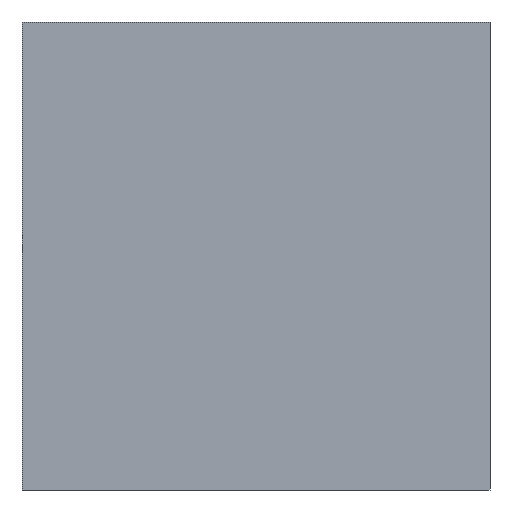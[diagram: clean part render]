
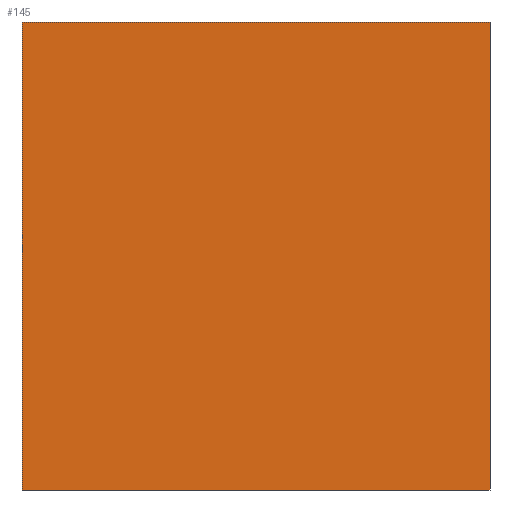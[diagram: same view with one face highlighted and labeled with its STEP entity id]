
A CAD part, front view. The second image highlights one B-rep face of the part: STEP entity #145.
In plain terms, the highlighted planar face has unit normal (0, -1, 0).
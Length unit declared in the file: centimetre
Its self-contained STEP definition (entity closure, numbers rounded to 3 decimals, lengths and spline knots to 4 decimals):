
#76 = CARTESIAN_POINT ( 'NONE',  ( 0., 0., 1000. ) ) ;
#145 = ADVANCED_FACE ( 'NONE', ( #493 ), #722, .F. ) ;
#164 = CARTESIAN_POINT ( 'NONE',  ( 1000., 0., 1000. ) ) ;
#177 = EDGE_LOOP ( 'NONE', ( #603, #1332, #447, #546 ) ) ;
#198 = CARTESIAN_POINT ( 'NONE',  ( 0., 0., 1000. ) ) ;
#244 = AXIS2_PLACEMENT_3D ( 'NONE', #198, #1058, #1036 ) ;
#268 = LINE ( 'NONE', #164, #1047 ) ;
#447 = ORIENTED_EDGE ( 'NONE', *, *, #1146, .F. ) ;
#493 = FACE_OUTER_BOUND ( 'NONE', #177, .T. ) ;
#528 = VECTOR ( 'NONE', #1173, 100. ) ;
#538 = VERTEX_POINT ( 'NONE', #592 ) ;
#541 = EDGE_CURVE ( 'NONE', #1352, #1101, #812, .T. ) ;
#546 = ORIENTED_EDGE ( 'NONE', *, *, #541, .T. ) ;
#592 = CARTESIAN_POINT ( 'NONE',  ( 1000., 0., 0. ) ) ;
#603 = ORIENTED_EDGE ( 'NONE', *, *, #1000, .T. ) ;
#622 = LINE ( 'NONE', #1263, #528 ) ;
#644 = VERTEX_POINT ( 'NONE', #1165 ) ;
#722 = PLANE ( 'NONE',  #244 ) ;
#800 = LINE ( 'NONE', #918, #1246 ) ;
#812 = LINE ( 'NONE', #1348, #1180 ) ;
#918 = CARTESIAN_POINT ( 'NONE',  ( 0., 0., 1000. ) ) ;
#990 = CARTESIAN_POINT ( 'NONE',  ( 0., 0., 0. ) ) ;
#1000 = EDGE_CURVE ( 'NONE', #1101, #538, #622, .T. ) ;
#1036 = DIRECTION ( 'NONE',  ( 0., 0., 1. ) ) ;
#1046 = DIRECTION ( 'NONE',  ( 0., 0., -1. ) ) ;
#1047 = VECTOR ( 'NONE', #1110, 100. ) ;
#1058 = DIRECTION ( 'NONE',  ( 0., 1., 0. ) ) ;
#1101 = VERTEX_POINT ( 'NONE', #990 ) ;
#1110 = DIRECTION ( 'NONE',  ( 0., 0., -1. ) ) ;
#1146 = EDGE_CURVE ( 'NONE', #1352, #644, #800, .T. ) ;
#1158 = EDGE_CURVE ( 'NONE', #644, #538, #268, .T. ) ;
#1165 = CARTESIAN_POINT ( 'NONE',  ( 1000., 0., 1000. ) ) ;
#1173 = DIRECTION ( 'NONE',  ( 1., 0., 0. ) ) ;
#1180 = VECTOR ( 'NONE', #1046, 100. ) ;
#1246 = VECTOR ( 'NONE', #1349, 100. ) ;
#1263 = CARTESIAN_POINT ( 'NONE',  ( 0., 0., 0. ) ) ;
#1332 = ORIENTED_EDGE ( 'NONE', *, *, #1158, .F. ) ;
#1348 = CARTESIAN_POINT ( 'NONE',  ( 0., 0., 1000. ) ) ;
#1349 = DIRECTION ( 'NONE',  ( 1., 0., 0. ) ) ;
#1352 = VERTEX_POINT ( 'NONE', #76 ) ;
